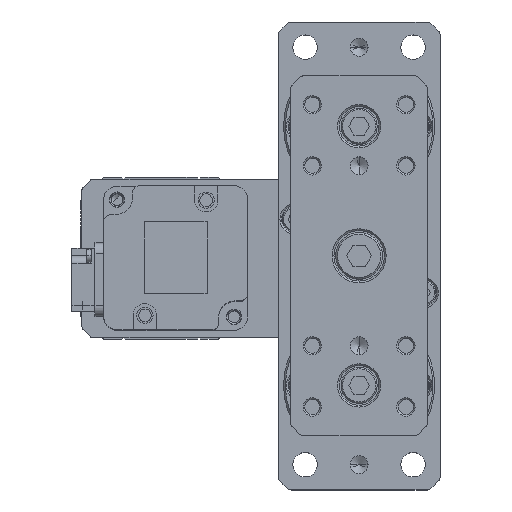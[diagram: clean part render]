
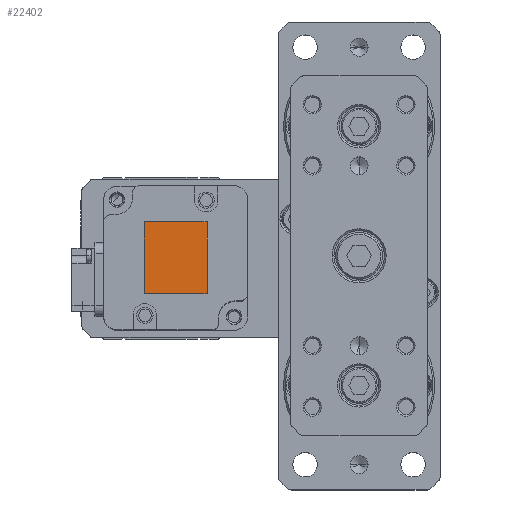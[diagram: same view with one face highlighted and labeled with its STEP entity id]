
A CAD part, top view. The second image highlights one B-rep face of the part: STEP entity #22402.
In plain terms, the highlighted planar face has unit normal (0, 0, 1) as drawn and (0, 0, -1) by its records, which use the part's own axes.
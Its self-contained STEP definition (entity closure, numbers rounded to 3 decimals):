
#1126 = ORIENTED_EDGE ( 'NONE', *, *, #39576, .T. ) ;
#2972 = CARTESIAN_POINT ( 'NONE',  ( 10., -8.75, -82.6 ) ) ;
#3185 = ORIENTED_EDGE ( 'NONE', *, *, #9230, .T. ) ;
#3488 = VERTEX_POINT ( 'NONE', #2972 ) ;
#5728 = EDGE_CURVE ( 'NONE', #11805, #3488, #40364, .T. ) ;
#8452 = LINE ( 'NONE', #29819, #42806 ) ;
#9230 = EDGE_CURVE ( 'NONE', #24113, #31532, #35817, .T. ) ;
#9872 = CARTESIAN_POINT ( 'NONE',  ( 10., 8.75, -82.6 ) ) ;
#10361 = CARTESIAN_POINT ( 'NONE',  ( 0., 0., -82.6 ) ) ;
#10663 = DIRECTION ( 'NONE',  ( 1., 0., 0. ) ) ;
#11805 = VERTEX_POINT ( 'NONE', #18616 ) ;
#13811 = VECTOR ( 'NONE', #29810, 1000. ) ;
#18132 = VECTOR ( 'NONE', #19806, 1000. ) ;
#18138 = CARTESIAN_POINT ( 'NONE',  ( -10., 8.75, -82.6 ) ) ;
#18248 = ORIENTED_EDGE ( 'NONE', *, *, #34000, .T. ) ;
#18289 = AXIS2_PLACEMENT_3D ( 'NONE', #10361, #30633, #10663 ) ;
#18616 = CARTESIAN_POINT ( 'NONE',  ( 10., 8.75, -82.6 ) ) ;
#19806 = DIRECTION ( 'NONE',  ( 0., 1., 0. ) ) ;
#20027 = LINE ( 'NONE', #9872, #36658 ) ;
#20760 = FACE_OUTER_BOUND ( 'NONE', #23560, .T. ) ;
#22402 = ADVANCED_FACE ( 'NONE', ( #20760 ), #27321, .F. ) ;
#23560 = EDGE_LOOP ( 'NONE', ( #3185, #1126, #25723, #18248 ) ) ;
#24113 = VERTEX_POINT ( 'NONE', #40661 ) ;
#25723 = ORIENTED_EDGE ( 'NONE', *, *, #5728, .T. ) ;
#27321 = PLANE ( 'NONE',  #18289 ) ;
#29810 = DIRECTION ( 'NONE',  ( 0., -1., 0. ) ) ;
#29819 = CARTESIAN_POINT ( 'NONE',  ( -10., -8.75, -82.6 ) ) ;
#29830 = DIRECTION ( 'NONE',  ( 1., 0., 0. ) ) ;
#30633 = DIRECTION ( 'NONE',  ( 0., 0., 1. ) ) ;
#31532 = VERTEX_POINT ( 'NONE', #18138 ) ;
#33165 = CARTESIAN_POINT ( 'NONE',  ( -10., 8.75, -82.6 ) ) ;
#34000 = EDGE_CURVE ( 'NONE', #3488, #24113, #8452, .T. ) ;
#35817 = LINE ( 'NONE', #33165, #18132 ) ;
#36640 = DIRECTION ( 'NONE',  ( -1., 0., 0. ) ) ;
#36658 = VECTOR ( 'NONE', #29830, 1000. ) ;
#39576 = EDGE_CURVE ( 'NONE', #31532, #11805, #20027, .T. ) ;
#39682 = CARTESIAN_POINT ( 'NONE',  ( 10., -8.75, -82.6 ) ) ;
#40364 = LINE ( 'NONE', #39682, #13811 ) ;
#40661 = CARTESIAN_POINT ( 'NONE',  ( -10., -8.75, -82.6 ) ) ;
#42806 = VECTOR ( 'NONE', #36640, 1000. ) ;
